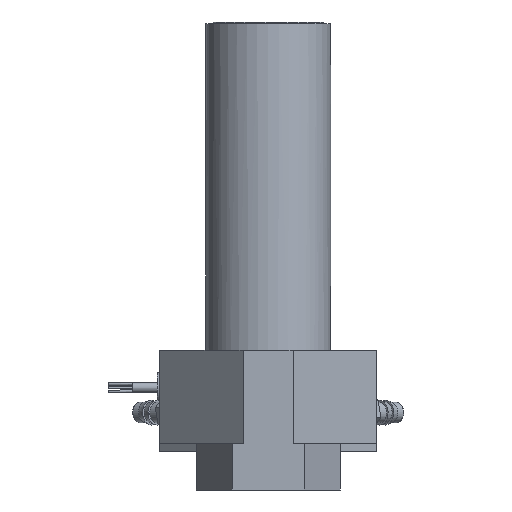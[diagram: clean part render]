
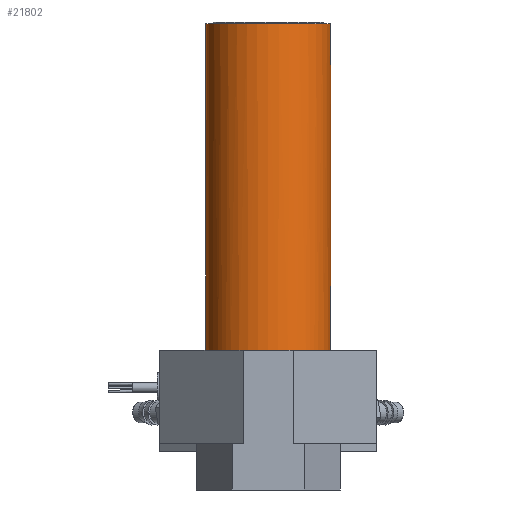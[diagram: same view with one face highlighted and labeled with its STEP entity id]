
A CAD part, left-side view. The second image highlights one B-rep face of the part: STEP entity #21802.
In plain terms, the highlighted cylindrical face has radius 12.7 mm (diameter 25.4 mm), a full revolution.
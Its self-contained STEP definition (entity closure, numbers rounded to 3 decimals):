
#1270=CYLINDRICAL_SURFACE('',#23089,12.7);
#1526=FACE_BOUND('',#5804,.T.);
#2019=CIRCLE('',#23081,12.7);
#2020=CIRCLE('',#23083,12.7);
#2021=CIRCLE('',#23085,12.7);
#2022=CIRCLE('',#23087,12.7);
#2024=CIRCLE('',#23090,12.7);
#2025=CIRCLE('',#23091,12.7);
#4383=FACE_OUTER_BOUND('',#5803,.T.);
#5803=EDGE_LOOP('',(#19712));
#5804=EDGE_LOOP('',(#19713,#19714,#19715,#19716,#19717));
#10380=VERTEX_POINT('',#86271);
#10424=VERTEX_POINT('',#86446);
#10425=VERTEX_POINT('',#86448);
#10565=VERTEX_POINT('',#86768);
#10566=VERTEX_POINT('',#86770);
#11250=VERTEX_POINT('',#91070);
#14107=EDGE_CURVE('',#10425,#10565,#2019,.T.);
#14108=EDGE_CURVE('',#10380,#10424,#2020,.T.);
#14109=EDGE_CURVE('',#10566,#10380,#2021,.T.);
#14110=EDGE_CURVE('',#11250,#11250,#2022,.T.);
#14112=EDGE_CURVE('',#10424,#10425,#2024,.T.);
#14113=EDGE_CURVE('',#10565,#10566,#2025,.T.);
#19712=ORIENTED_EDGE('',*,*,#14110,.T.);
#19713=ORIENTED_EDGE('',*,*,#14107,.F.);
#19714=ORIENTED_EDGE('',*,*,#14112,.F.);
#19715=ORIENTED_EDGE('',*,*,#14108,.F.);
#19716=ORIENTED_EDGE('',*,*,#14109,.F.);
#19717=ORIENTED_EDGE('',*,*,#14113,.F.);
#21802=ADVANCED_FACE('',(#4383,#1526),#1270,.T.);
#23081=AXIS2_PLACEMENT_3D('',#91064,#27239,#27240);
#23083=AXIS2_PLACEMENT_3D('',#91066,#27243,#27244);
#23085=AXIS2_PLACEMENT_3D('',#91068,#27247,#27248);
#23087=AXIS2_PLACEMENT_3D('',#91071,#27251,#27252);
#23089=AXIS2_PLACEMENT_3D('',#91074,#27255,#27256);
#23090=AXIS2_PLACEMENT_3D('',#91075,#27257,#27258);
#23091=AXIS2_PLACEMENT_3D('',#91076,#27259,#27260);
#27239=DIRECTION('center_axis',(0.,0.,-1.));
#27240=DIRECTION('ref_axis',(-1.,0.,0.));
#27243=DIRECTION('center_axis',(0.,0.,-1.));
#27244=DIRECTION('ref_axis',(-1.,0.,0.));
#27247=DIRECTION('center_axis',(0.,0.,-1.));
#27248=DIRECTION('ref_axis',(-1.,0.,0.));
#27251=DIRECTION('center_axis',(0.,0.,-1.));
#27252=DIRECTION('ref_axis',(-1.,0.,0.));
#27255=DIRECTION('center_axis',(0.,0.,1.));
#27256=DIRECTION('ref_axis',(-1.,0.,0.));
#27257=DIRECTION('center_axis',(0.,0.,-1.));
#27258=DIRECTION('ref_axis',(-1.,0.,0.));
#27259=DIRECTION('center_axis',(0.,0.,-1.));
#27260=DIRECTION('ref_axis',(-1.,0.,0.));
#86271=CARTESIAN_POINT('',(-12.7,0.,19.05));
#86446=CARTESIAN_POINT('',(-10.16,7.62,19.05));
#86448=CARTESIAN_POINT('',(-7.62,10.16,19.05));
#86768=CARTESIAN_POINT('',(-7.62,-10.16,19.05));
#86770=CARTESIAN_POINT('',(-10.16,-7.62,19.05));
#91064=CARTESIAN_POINT('Origin',(0.,0.,19.05));
#91066=CARTESIAN_POINT('Origin',(0.,0.,19.05));
#91068=CARTESIAN_POINT('Origin',(0.,0.,19.05));
#91070=CARTESIAN_POINT('',(12.7,0.,85.344));
#91071=CARTESIAN_POINT('Origin',(0.,0.,85.344));
#91074=CARTESIAN_POINT('Origin',(0.,0.,19.05));
#91075=CARTESIAN_POINT('Origin',(0.,0.,19.05));
#91076=CARTESIAN_POINT('Origin',(0.,0.,19.05));
